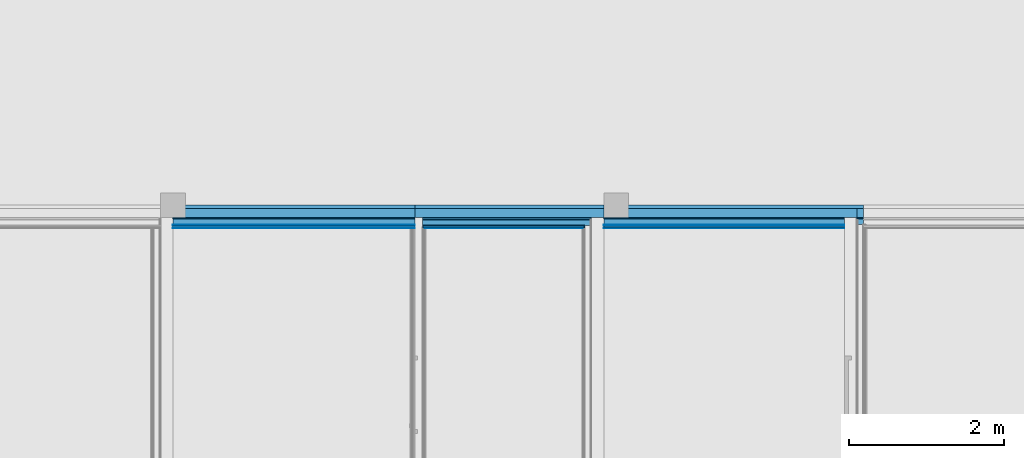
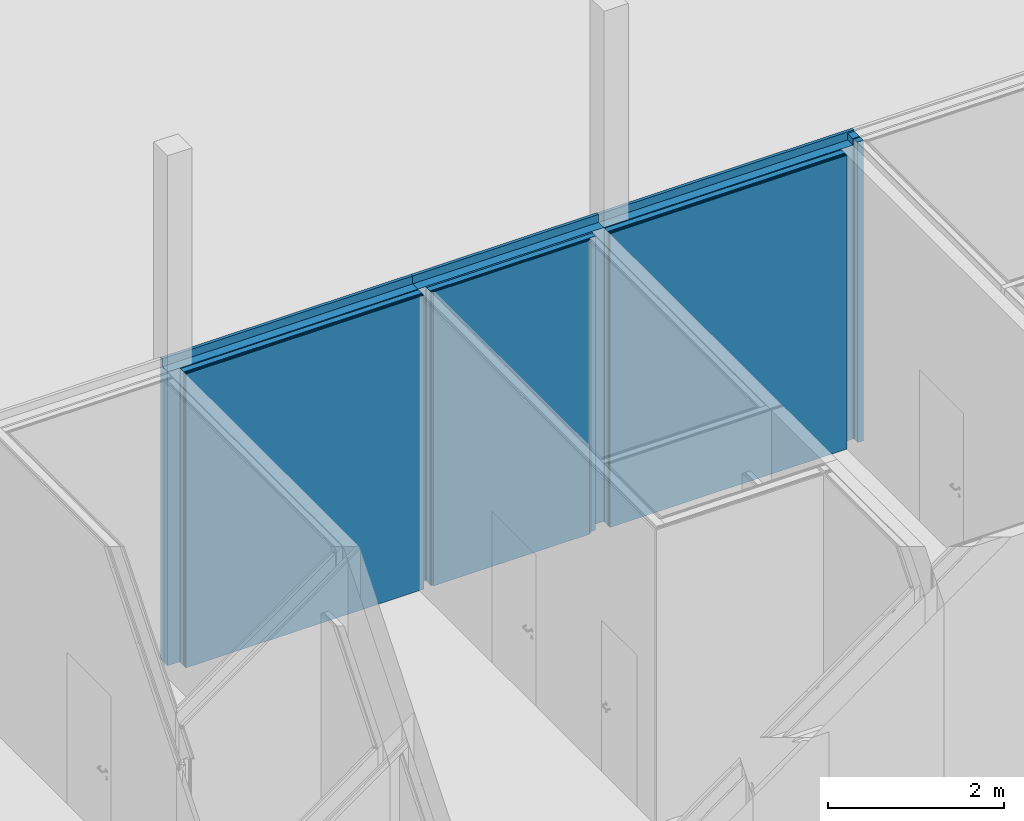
# One storey, part 226 of 260: 20 building element parts, 3 elements without a shape of their own.
"""IFC2X3 building model written with IfcOpenShell, lengths in millimetres."""

from ifc_helpers import new_model, entity, si_unit, converted_unit, derived_unit, money_unit, direction, frame, origin_with_axes, place, context, subcontext, project, spatial, faceted_brep, material, type_object, element, aggregate, save


model = new_model("IFC2X3")

# Units and contexts
model_context = context("Model", 3, precision=0.01, world=origin_with_axes(), true_north=direction((0.0, 1.0)))
body_context = subcontext(model_context, "Body", "Model", "MODEL_VIEW")
ifc_project = project(units=[si_unit("LENGTHUNIT", "METRE", prefix="MILLI"), si_unit("AREAUNIT", "SQUARE_METRE"), si_unit("VOLUMEUNIT", "CUBIC_METRE"), converted_unit("PLANEANGLEUNIT", "DEGREE", entity("IfcPlaneAngleMeasure", 0.0174532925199), si_unit("PLANEANGLEUNIT", "RADIAN"), dimensions=[0, 0, 0, 0, 0, 0, 0]), money_unit("EUR"), converted_unit("TIMEUNIT", "Year", entity("IfcTimeMeasure", 31556926.0), si_unit("TIMEUNIT", "SECOND"), dimensions=[0, 0, 1, 0, 0, 0, 0]), si_unit("MASSUNIT", "GRAM", prefix="KILO"), si_unit("THERMODYNAMICTEMPERATUREUNIT", "DEGREE_CELSIUS"), si_unit("LUMINOUSINTENSITYUNIT", "LUMEN"), si_unit("ENERGYUNIT", "JOULE", prefix="MEGA"), derived_unit("THERMALCONDUCTANCEUNIT", [(si_unit("POWERUNIT", "WATT"), 1), (si_unit("LENGTHUNIT", "METRE"), -1), (si_unit("THERMODYNAMICTEMPERATUREUNIT", "KELVIN"), -1)]), derived_unit("SPECIFICHEATCAPACITYUNIT", [(si_unit("ENERGYUNIT", "JOULE"), 1), (si_unit("MASSUNIT", "GRAM", prefix="KILO"), -1), (si_unit("THERMODYNAMICTEMPERATUREUNIT", "KELVIN"), -1)]), derived_unit("MASSDENSITYUNIT", [(si_unit("MASSUNIT", "GRAM", prefix="KILO"), 1), (si_unit("VOLUMEUNIT", "CUBIC_METRE"), -1)])], contexts=[model_context])

# Site, building, storey
site_placement = place(None, origin_with_axes())
site = spatial("IfcSite", under=ifc_project, at=site_placement, Name="Kolde pst 67a", CompositionType="ELEMENT")
building_placement = place(site_placement, origin_with_axes())
building = spatial("IfcBuilding", under=site, at=building_placement, Name="Riigigümnaasium", CompositionType="ELEMENT")
storey_placement = place(building_placement, origin_with_axes())
storey = spatial("IfcBuildingStorey", under=building, at=storey_placement, Name="1. korrus", CompositionType="ELEMENT", Elevation=0.0)

# Wall, building element parts
wall_type_1 = type_object("IfcWallType", Name="SS-CLT-16/1_vill75+krohv 52 dB 300", PredefinedType="NOTDEFINED")
wall_1_placement = place(storey_placement, frame((15200.0, 67089.9971514, 0.0), z_axis=(0.0, 0.0, 1.0), x_axis=(1.0, 0.0, 0.0)))
wall_1 = element("IfcWall", 1, at=wall_1_placement, inside=storey, type_object=wall_type_1, Name="Sisesein")
ifc_material_1 = material(Name="_KANDETARIND - CLT ristkihtliimpuit vastavalt EK osale, CLT paigaldusvuugid teibitakse ROTHOBLAAS teibiga")
building_element_part_1_placement = place(wall_1_placement, origin_with_axes())
building_element_part_1 = element("IfcBuildingElementPart", 2, at=building_element_part_1_placement, material=ifc_material_1, Name="_KANDETARIND - CLT ristkihtliimpuit vastavalt EK osale, CLT paigaldusvuugid teibitakse ROTHOBLAAS teibiga", context=body_context, shape_type="Brep", body=[
    faceted_brep([(0.0, 119.999594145, 4190.0), (3287.48725254, 119.996637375, 4190.0), (3287.48725254, 160.0, 4190.0), (0.0, 160.0, 4190.0), (0.0, 119.999594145, 4080.0), (3287.48725254, 119.996637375, 4080.0), (3287.48725254, 0.0, 4080.0), (3287.48725254, 0.0, 0.0), (3287.48725254, 160.0, 0.0), (0.0, 160.0, 0.0), (0.0, 0.0, 0.0), (0.0, 0.0, 4080.0)], [[[0, 1, 2, 3]], [[1, 0, 4, 5]], [[5, 6, 7, 8, 2, 1]], [[3, 2, 8, 9]], [[4, 0, 3, 9, 10, 11]], [[4, 11, 6, 5]], [[11, 10, 7, 6]], [[9, 8, 7, 10]]]),
])
ifc_material_2 = material(Name="_ÕHKVAHE")
building_element_part_2_placement = place(wall_1_placement, origin_with_axes())
building_element_part_2 = element("IfcBuildingElementPart", 3, at=building_element_part_2_placement, material=ifc_material_2, Name="_ÕHKVAHE", context=body_context, shape_type="Brep", body=[
    faceted_brep([(160.0, 0.0, 4080.0), (3287.48725254, 0.0, 4080.0), (3287.48725254, 0.0, 0.0), (160.0, 0.0, 0.0), (3287.48725254, -15.0, 4080.0), (160.0, -15.0, 4080.0), (3287.48725254, -15.0, 0.0), (160.0, -15.0, 0.0)], [[[0, 1, 2, 3]], [[4, 1, 0, 5]], [[1, 4, 6, 2]], [[3, 2, 6, 7]], [[5, 0, 3, 7]], [[4, 5, 7, 6]]]),
])
ifc_material_3 = material(Name="_KARKASS - metallkarkass CW 75/50/06 ja UW 75/40/06, samm 600, vahel mineraalvill, helineeldetegur αw = 1.0,  ISOVER ACOUSTIC 75mm või samaväärne")
building_element_part_3_placement = place(wall_1_placement, origin_with_axes())
building_element_part_3 = element("IfcBuildingElementPart", 4, at=building_element_part_3_placement, material=ifc_material_3, Name="_KARKASS - metallkarkass CW 75/50/06 ja UW 75/40/06, samm 600, vahel mineraalvill, helineeldetegur αw = 1.0,  ISOVER ACOUSTIC 75mm või samaväärne", context=body_context, shape_type="Brep", body=[
    faceted_brep([(160.0, -15.0, 4080.0), (3287.48725254, -15.0, 4080.0), (3287.48725254, -15.0, 0.0), (160.0, -15.0, 0.0), (3287.48725254, -90.0, 4080.0), (160.0, -90.0, 4080.0), (3287.48725254, -90.0, 0.0), (160.0, -90.0, 0.0)], [[[0, 1, 2, 3]], [[4, 1, 0, 5]], [[1, 4, 6, 2]], [[3, 2, 6, 7]], [[5, 0, 3, 7]], [[4, 5, 7, 6]]]),
])
ifc_material_4 = material(Name="_PLAATMATERJAL - OSB3 plaat")
building_element_part_4_placement = place(wall_1_placement, origin_with_axes())
building_element_part_4 = element("IfcBuildingElementPart", 5, at=building_element_part_4_placement, material=ifc_material_4, Name="_PLAATMATERJAL - OSB3 plaat", context=body_context, shape_type="Brep", body=[
    faceted_brep([(160.0, -90.0, 4080.0), (3287.48725254, -90.0, 4080.0), (3287.48725254, -90.0, 0.0), (160.0, -90.0, 0.0), (3287.48725254, -100.0, 4080.0), (160.0, -100.0, 4080.0), (3287.48725254, -100.0, 0.0), (160.0, -100.0, 0.0)], [[[0, 1, 2, 3]], [[4, 1, 0, 5]], [[1, 4, 6, 2]], [[3, 2, 6, 7]], [[5, 0, 3, 7]], [[4, 5, 7, 6]]]),
])
ifc_material_5 = material(Name="_PLAATMATERJAL - tuletõkkekipsplaat, Knauf Red GKF või samaväärne")
building_element_part_5_placement = place(wall_1_placement, origin_with_axes())
building_element_part_5 = element("IfcBuildingElementPart", 6, at=building_element_part_5_placement, material=ifc_material_5, Name="_PLAATMATERJAL - tuletõkkekipsplaat, Knauf Red GKF või samaväärne", context=body_context, shape_type="Brep", body=[
    faceted_brep([(160.0, -100.0, 4080.0), (3287.48725254, -100.0, 4080.0), (3287.48725254, -100.0, 0.0), (160.0, -100.0, 0.0), (3287.48725254, -115.0, 4080.0), (160.0, -115.0, 4080.0), (3287.48725254, -115.0, 0.0), (160.0, -115.0, 0.0)], [[[0, 1, 2, 3]], [[4, 1, 0, 5]], [[1, 4, 6, 2]], [[3, 2, 6, 7]], [[5, 0, 3, 7]], [[4, 5, 7, 6]]]),
])
building_element_part_6_placement = place(wall_1_placement, origin_with_axes())
building_element_part_6 = element("IfcBuildingElementPart", 7, at=building_element_part_6_placement, material=ifc_material_5, Name="_PLAATMATERJAL - tuletõkkekipsplaat, Knauf Red GKF või samaväärne", context=body_context, shape_type="Brep", body=[
    faceted_brep([(160.0, -115.0, 4080.0), (3287.48725254, -115.0, 4080.0), (3287.48725254, -115.0, 0.0), (160.0, -115.0, 0.0), (3287.48725254, -130.0, 4080.0), (160.0, -130.0, 4080.0), (3287.48725254, -130.0, 0.0), (160.0, -130.0, 0.0)], [[[0, 1, 2, 3]], [[4, 1, 0, 5]], [[1, 4, 6, 2]], [[3, 2, 6, 7]], [[5, 0, 3, 7]], [[4, 5, 7, 6]]]),
])
ifc_material_6 = material(Name="_VIIMISTLUSKIHT - viimistlus vastavalt SA osale")
building_element_part_7_placement = place(wall_1_placement, origin_with_axes())
building_element_part_7 = element("IfcBuildingElementPart", 8, at=building_element_part_7_placement, material=ifc_material_6, Name="_VIIMISTLUSKIHT - viimistlus vastavalt SA osale", context=body_context, shape_type="Brep", body=[
    faceted_brep([(160.0, -130.0, 4080.0), (3287.48725254, -130.0, 4080.0), (3287.48725254, -130.0, 0.0), (160.0, -130.0, 0.0), (3287.48725254, -140.0, 4080.0), (160.0, -140.0, 4080.0), (3287.48725254, -140.0, 0.0), (160.0, -140.0, 0.0)], [[[0, 1, 2, 3]], [[4, 1, 0, 5]], [[1, 4, 6, 2]], [[3, 2, 6, 7]], [[5, 0, 3, 7]], [[4, 5, 7, 6]]]),
])
aggregate(wall_1, [building_element_part_1, building_element_part_2, building_element_part_3, building_element_part_4, building_element_part_5, building_element_part_6, building_element_part_7])

wall_2_placement = place(storey_placement, frame((20928.4872525, 67089.9971514, 0.0), z_axis=(0.0, 0.0, 1.0), x_axis=(1.0, 0.0, 0.0)))
wall_2 = element("IfcWall", 9, at=wall_2_placement, inside=storey, type_object=wall_type_1, Name="Sisesein")
building_element_part_8_placement = place(wall_2_placement, origin_with_axes())
building_element_part_8 = element("IfcBuildingElementPart", 10, at=building_element_part_8_placement, material=ifc_material_1, Name="_KANDETARIND - CLT ristkihtliimpuit vastavalt EK osale, CLT paigaldusvuugid teibitakse ROTHOBLAAS teibiga", context=body_context, shape_type="Brep", body=[
    faceted_brep([(3356.51551685, 119.994576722, 4190.0), (3356.51551685, 160.0, 4190.0), (0.0, 160.0, 4190.0), (0.0, 119.996637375, 4190.0), (3356.51551685, 119.996596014, 4170.0), (3356.51551685, 0.0, 4170.0), (3356.51551685, 0.0, 0.0), (3356.51551685, 160.0, 0.0), (0.0, 160.0, 0.0), (0.0, 0.0, 4080.0), (0.0, 119.996637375, 4080.0), (0.0, 0.0, 0.0), (3271.51548163, 119.996637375, 4080.0), (3271.51548163, 119.996637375, 4170.0), (3271.51548163, 0.0, 4170.0), (3271.51548163, 0.0, 4080.0)], [[[0, 1, 2, 3]], [[1, 0, 4, 5, 6, 7]], [[7, 8, 2, 1]], [[9, 10, 3, 2, 8, 11]], [[12, 13, 4, 0, 3, 10]], [[13, 14, 5, 4]], [[15, 9, 11, 6, 5, 14]], [[6, 11, 8, 7]], [[15, 12, 10, 9]], [[14, 13, 12, 15]]]),
])
building_element_part_9_placement = place(wall_2_placement, origin_with_axes())
building_element_part_9 = element("IfcBuildingElementPart", 11, at=building_element_part_9_placement, material=ifc_material_2, Name="_ÕHKVAHE", context=body_context, shape_type="Brep", body=[
    faceted_brep([(0.0, 0.0, 4080.0), (3111.51548163, 0.0, 4080.0), (3111.51548163, 0.0, 0.0), (0.0, 0.0, 0.0), (3111.51548163, -15.0, 4080.0), (0.0, -15.0, 4080.0), (3111.51548163, -15.0, 0.0), (0.0, -15.0, 0.0)], [[[0, 1, 2, 3]], [[4, 1, 0, 5]], [[1, 4, 6, 2]], [[6, 7, 3, 2]], [[5, 0, 3, 7]], [[4, 5, 7, 6]]]),
    faceted_brep([(3271.51548163, 0.0, 4170.0), (3356.51551685, 0.0, 4170.0), (3356.51551685, 0.0, 0.0), (3271.51548163, 0.0, 0.0), (3356.51551685, -15.0, 4170.0), (3271.51548163, -15.0, 4170.0), (3356.51551685, -15.0, 0.0), (3271.51548163, -15.0, 0.0)], [[[0, 1, 2, 3]], [[4, 1, 0, 5]], [[1, 4, 6, 2]], [[7, 3, 2, 6]], [[5, 0, 3, 7]], [[4, 5, 7, 6]]]),
])
building_element_part_10_placement = place(wall_2_placement, origin_with_axes())
building_element_part_10 = element("IfcBuildingElementPart", 12, at=building_element_part_10_placement, material=ifc_material_3, Name="_KARKASS - metallkarkass CW 75/50/06 ja UW 75/40/06, samm 600, vahel mineraalvill, helineeldetegur αw = 1.0,  ISOVER ACOUSTIC 75mm või samaväärne", context=body_context, shape_type="Brep", body=[
    faceted_brep([(0.0, -15.0, 4080.0), (3111.51548163, -15.0, 4080.0), (3111.51548163, -15.0, 0.0), (0.0, -15.0, 0.0), (3111.51548163, -90.0, 4080.0), (0.0, -90.0, 4080.0), (3111.51548163, -90.0, 0.0), (0.0, -90.0, 0.0)], [[[0, 1, 2, 3]], [[4, 1, 0, 5]], [[1, 4, 6, 2]], [[6, 7, 3, 2]], [[5, 0, 3, 7]], [[4, 5, 7, 6]]]),
    faceted_brep([(3281.51548163, -15.0, 4170.0), (3356.51551685, -15.0, 4170.0), (3356.51551685, -15.0, 0.0), (3281.51548163, -15.0, 0.0), (3356.51551685, -90.0, 4170.0), (3281.51548163, -90.0, 4170.0), (3356.51551685, -90.0, 0.0), (3281.51548163, -90.0, 0.0)], [[[0, 1, 2, 3]], [[4, 1, 0, 5]], [[1, 4, 6, 2]], [[7, 3, 2, 6]], [[5, 0, 3, 7]], [[4, 5, 7, 6]]]),
])
building_element_part_11_placement = place(wall_2_placement, origin_with_axes())
building_element_part_11 = element("IfcBuildingElementPart", 13, at=building_element_part_11_placement, material=ifc_material_4, Name="_PLAATMATERJAL - OSB3 plaat", context=body_context, shape_type="Brep", body=[
    faceted_brep([(0.0, -90.0, 4080.0), (3111.51548163, -90.0, 4080.0), (3111.51548163, -90.0, 0.0), (0.0, -90.0, 0.0), (3111.51548163, -100.0, 4080.0), (0.0, -100.0, 4080.0), (3111.51548163, -100.0, 0.0), (0.0, -100.0, 0.0)], [[[0, 1, 2, 3]], [[4, 1, 0, 5]], [[1, 4, 6, 2]], [[6, 7, 3, 2]], [[5, 0, 3, 7]], [[4, 5, 7, 6]]]),
])
building_element_part_12_placement = place(wall_2_placement, origin_with_axes())
building_element_part_12 = element("IfcBuildingElementPart", 14, at=building_element_part_12_placement, material=ifc_material_5, Name="_PLAATMATERJAL - tuletõkkekipsplaat, Knauf Red GKF või samaväärne", context=body_context, shape_type="Brep", body=[
    faceted_brep([(0.0, -100.0, 4080.0), (3111.51548163, -100.0, 4080.0), (3111.51548163, -100.0, 0.0), (0.0, -100.0, 0.0), (3111.51548163, -115.0, 4080.0), (0.0, -115.0, 4080.0), (3111.51548163, -115.0, 0.0), (0.0, -115.0, 0.0)], [[[0, 1, 2, 3]], [[4, 1, 0, 5]], [[1, 4, 6, 2]], [[6, 7, 3, 2]], [[5, 0, 3, 7]], [[4, 5, 7, 6]]]),
])
building_element_part_13_placement = place(wall_2_placement, origin_with_axes())
building_element_part_13 = element("IfcBuildingElementPart", 15, at=building_element_part_13_placement, material=ifc_material_5, Name="_PLAATMATERJAL - tuletõkkekipsplaat, Knauf Red GKF või samaväärne", context=body_context, shape_type="Brep", body=[
    faceted_brep([(0.0, -115.0, 4080.0), (3111.51548163, -115.0, 4080.0), (3111.51548163, -115.0, 0.0), (0.0, -115.0, 0.0), (3111.51548163, -130.0, 4080.0), (0.0, -130.0, 4080.0), (3111.51548163, -130.0, 0.0), (0.0, -130.0, 0.0)], [[[0, 1, 2, 3]], [[4, 1, 0, 5]], [[1, 4, 6, 2]], [[6, 7, 3, 2]], [[5, 0, 3, 7]], [[4, 5, 7, 6]]]),
])
building_element_part_14_placement = place(wall_2_placement, origin_with_axes())
building_element_part_14 = element("IfcBuildingElementPart", 16, at=building_element_part_14_placement, material=ifc_material_6, Name="_VIIMISTLUSKIHT - viimistlus vastavalt SA osale", context=body_context, shape_type="Brep", body=[
    faceted_brep([(0.0, -130.0, 4080.0), (3111.51548163, -130.0, 4080.0), (3111.51548163, -130.0, 0.0), (0.0, -130.0, 0.0), (3111.51548163, -140.0, 4080.0), (0.0, -140.0, 4080.0), (3111.51548163, -140.0, 0.0), (0.0, -140.0, 0.0)], [[[0, 1, 2, 3]], [[4, 1, 0, 5]], [[1, 4, 6, 2]], [[6, 7, 3, 2]], [[5, 0, 3, 7]], [[4, 5, 7, 6]]]),
])
aggregate(wall_2, [building_element_part_8, building_element_part_9, building_element_part_10, building_element_part_11, building_element_part_12, building_element_part_13, building_element_part_14])

wall_type_2 = type_object("IfcWallType", Name="SS-CLT-16/2_vill75 +plaat 300", PredefinedType="NOTDEFINED")
wall_3_placement = place(storey_placement, frame((18487.4872525, 67089.9971514, 0.0), z_axis=(0.0, 0.0, 1.0), x_axis=(1.0, 0.0, 0.0)))
wall_3 = element("IfcWall", 17, at=wall_3_placement, inside=storey, type_object=wall_type_2, Name="Sisesein")
building_element_part_15_placement = place(wall_3_placement, origin_with_axes())
building_element_part_15 = element("IfcBuildingElementPart", 18, at=building_element_part_15_placement, material=ifc_material_1, Name="_KANDETARIND - CLT ristkihtliimpuit vastavalt EK osale, CLT paigaldusvuugid teibitakse ROTHOBLAAS teibiga", context=body_context, shape_type="Brep", body=[
    faceted_brep([(0.0, 119.996637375, 4190.0), (2441.0, 119.996637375, 4190.0), (2441.0, 160.0, 4190.0), (0.0, 160.0, 4190.0), (2441.0, 119.996637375, 4080.0), (0.0, 119.996637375, 4080.0), (2441.0, 0.0, 4080.0), (2441.0, 0.0, 0.0), (2441.0, 160.0, 0.0), (0.0, 160.0, 0.0), (0.0, 0.0, 0.0), (0.0, 0.0, 4080.0)], [[[0, 1, 2, 3]], [[4, 1, 0, 5]], [[4, 6, 7, 8, 2, 1]], [[8, 9, 3, 2]], [[5, 0, 3, 9, 10, 11]], [[6, 4, 5, 11]], [[6, 11, 10, 7]], [[7, 10, 9, 8]]]),
])
building_element_part_16_placement = place(wall_3_placement, origin_with_axes())
building_element_part_16 = element("IfcBuildingElementPart", 19, at=building_element_part_16_placement, material=ifc_material_2, Name="_ÕHKVAHE", context=body_context, shape_type="Brep", body=[
    faceted_brep([(100.0, 0.0, 4080.0), (2281.0, 0.0, 4080.0), (2281.0, 0.0, 0.0), (100.0, 0.0, 0.0), (2281.0, -25.0, 4080.0), (100.0, -25.0, 4080.0), (2281.0, -25.0, 0.0), (100.0, -25.0, 0.0)], [[[0, 1, 2, 3]], [[4, 1, 0, 5]], [[1, 4, 6, 2]], [[3, 2, 6, 7]], [[5, 0, 3, 7]], [[4, 5, 7, 6]]]),
])
building_element_part_17_placement = place(wall_3_placement, origin_with_axes())
building_element_part_17 = element("IfcBuildingElementPart", 20, at=building_element_part_17_placement, material=ifc_material_3, Name="_KARKASS - metallkarkass CW 75/50/06 ja UW 75/40/06, samm 600, vahel mineraalvill, helineeldetegur αw = 1.0,  ISOVER ACOUSTIC 75mm või samaväärne", context=body_context, shape_type="Brep", body=[
    faceted_brep([(100.0, -25.0, 4080.0), (2271.0, -25.0, 4080.0), (2271.0, -25.0, 0.0), (100.0, -25.0, 0.0), (2271.0, -100.0, 4080.0), (100.0, -100.0, 4080.0), (2271.0, -100.0, 0.0), (100.0, -100.0, 0.0)], [[[0, 1, 2, 3]], [[4, 1, 0, 5]], [[1, 4, 6, 2]], [[3, 2, 6, 7]], [[5, 0, 3, 7]], [[4, 5, 7, 6]]]),
])
building_element_part_18_placement = place(wall_3_placement, origin_with_axes())
building_element_part_18 = element("IfcBuildingElementPart", 21, at=building_element_part_18_placement, material=ifc_material_5, Name="_PLAATMATERJAL - tuletõkkekipsplaat, Knauf Red GKF või samaväärne", context=body_context, shape_type="Brep", body=[
    faceted_brep([(100.0, -100.0, 4080.0), (2196.0, -100.0, 4080.0), (2196.0, -100.0, 0.0), (100.0, -100.0, 0.0), (2196.0, -115.0, 4080.0), (100.0, -115.0, 4080.0), (2196.0, -115.0, 0.0), (100.0, -115.0, 0.0)], [[[0, 1, 2, 3]], [[4, 1, 0, 5]], [[1, 4, 6, 2]], [[3, 2, 6, 7]], [[5, 0, 3, 7]], [[4, 5, 7, 6]]]),
])
building_element_part_19_placement = place(wall_3_placement, origin_with_axes())
building_element_part_19 = element("IfcBuildingElementPart", 22, at=building_element_part_19_placement, material=ifc_material_5, Name="_PLAATMATERJAL - tuletõkkekipsplaat, Knauf Red GKF või samaväärne", context=body_context, shape_type="Brep", body=[
    faceted_brep([(100.0, -115.0, 4080.0), (2196.0, -115.0, 4080.0), (2196.0, -115.0, 0.0), (100.0, -115.0, 0.0), (2196.0, -130.0, 4080.0), (100.0, -130.0, 4080.0), (2196.0, -130.0, 0.0), (100.0, -130.0, 0.0)], [[[0, 1, 2, 3]], [[4, 1, 0, 5]], [[1, 4, 6, 2]], [[3, 2, 6, 7]], [[5, 0, 3, 7]], [[4, 5, 7, 6]]]),
])
building_element_part_20_placement = place(wall_3_placement, origin_with_axes())
building_element_part_20 = element("IfcBuildingElementPart", 23, at=building_element_part_20_placement, material=ifc_material_6, Name="_VIIMISTLUSKIHT - viimistlus vastavalt SA osale", context=body_context, shape_type="Brep", body=[
    faceted_brep([(125.0, -130.0, 4080.0), (2171.0, -130.0, 4080.0), (2171.0, -130.0, 0.0), (125.0, -130.0, 0.0), (2171.0, -140.0, 4080.0), (125.0, -140.0, 4080.0), (2171.0, -140.0, 0.0), (125.0, -140.0, 0.0)], [[[0, 1, 2, 3]], [[4, 1, 0, 5]], [[1, 4, 6, 2]], [[3, 2, 6, 7]], [[5, 0, 3, 7]], [[4, 5, 7, 6]]]),
])
aggregate(wall_3, [building_element_part_15, building_element_part_16, building_element_part_17, building_element_part_18, building_element_part_19, building_element_part_20])

save(model, "model.ifc")
